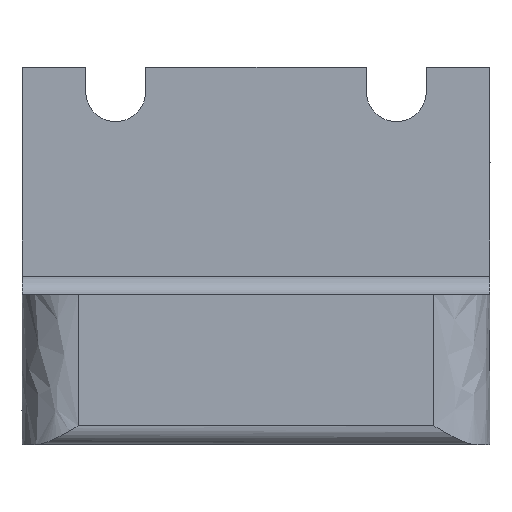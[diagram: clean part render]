
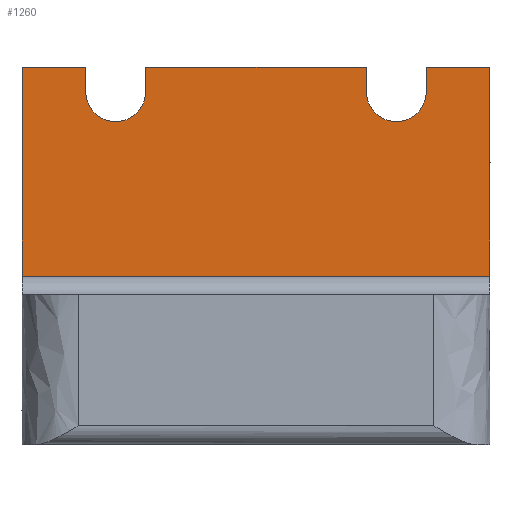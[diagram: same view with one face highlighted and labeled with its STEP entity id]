
A CAD part, left-side view. The second image highlights one B-rep face of the part: STEP entity #1260.
In plain terms, the highlighted planar face has unit normal (-1, 0, 0).
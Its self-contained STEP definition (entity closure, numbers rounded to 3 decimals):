
#2 = AXIS2_PLACEMENT_3D ( 'NONE', #207, #955, #1590 ) ;
#20 = DIRECTION ( 'NONE',  ( 0., 0., -1. ) ) ;
#35 = DIRECTION ( 'NONE',  ( 0., 0., -1. ) ) ;
#56 = LINE ( 'NONE', #317, #338 ) ;
#77 = EDGE_CURVE ( 'NONE', #1352, #1595, #395, .T. ) ;
#84 = ORIENTED_EDGE ( 'NONE', *, *, #685, .F. ) ;
#92 = DIRECTION ( 'NONE',  ( 0., 0., -1. ) ) ;
#95 = EDGE_CURVE ( 'NONE', #910, #1399, #257, .T. ) ;
#107 = ORIENTED_EDGE ( 'NONE', *, *, #1143, .F. ) ;
#122 = DIRECTION ( 'NONE',  ( 0., 0., -1. ) ) ;
#125 = VECTOR ( 'NONE', #1028, 1000. ) ;
#137 = CARTESIAN_POINT ( 'NONE',  ( -4.75, -12.5, 0. ) ) ;
#147 = ORIENTED_EDGE ( 'NONE', *, *, #472, .F. ) ;
#206 = VERTEX_POINT ( 'NONE', #550 ) ;
#207 = CARTESIAN_POINT ( 'NONE',  ( -4.75, -7.5, -1.3 ) ) ;
#211 = EDGE_CURVE ( 'NONE', #448, #1399, #56, .T. ) ;
#230 = AXIS2_PLACEMENT_3D ( 'NONE', #1123, #992, #1487 ) ;
#257 = LINE ( 'NONE', #526, #125 ) ;
#259 = DIRECTION ( 'NONE',  ( 0., 1., 0. ) ) ;
#317 = CARTESIAN_POINT ( 'NONE',  ( -4.75, 5.9, 0. ) ) ;
#324 = EDGE_CURVE ( 'NONE', #1352, #206, #400, .T. ) ;
#331 = CARTESIAN_POINT ( 'NONE',  ( -4.75, -9.1, 0. ) ) ;
#338 = VECTOR ( 'NONE', #1051, 1000. ) ;
#345 = EDGE_CURVE ( 'NONE', #1107, #1562, #531, .T. ) ;
#373 = ORIENTED_EDGE ( 'NONE', *, *, #1091, .F. ) ;
#378 = EDGE_LOOP ( 'NONE', ( #84, #373, #1293, #647, #107, #147, #1138, #1223, #1021, #406, #1035, #533 ) ) ;
#385 = CARTESIAN_POINT ( 'NONE',  ( -4.75, -12.5, 0. ) ) ;
#395 = LINE ( 'NONE', #385, #841 ) ;
#400 = LINE ( 'NONE', #902, #1412 ) ;
#406 = ORIENTED_EDGE ( 'NONE', *, *, #324, .F. ) ;
#424 = CARTESIAN_POINT ( 'NONE',  ( -4.75, 5.9, -1.3 ) ) ;
#448 = VERTEX_POINT ( 'NONE', #424 ) ;
#472 = EDGE_CURVE ( 'NONE', #1465, #693, #1033, .T. ) ;
#475 = FACE_OUTER_BOUND ( 'NONE', #378, .T. ) ;
#478 = LINE ( 'NONE', #1074, #1600 ) ;
#482 = VERTEX_POINT ( 'NONE', #912 ) ;
#526 = CARTESIAN_POINT ( 'NONE',  ( -4.75, -12.5, 0. ) ) ;
#531 = LINE ( 'NONE', #1535, #1210 ) ;
#533 = ORIENTED_EDGE ( 'NONE', *, *, #911, .F. ) ;
#550 = CARTESIAN_POINT ( 'NONE',  ( -4.75, -12.5, -11.15 ) ) ;
#625 = EDGE_CURVE ( 'NONE', #206, #1562, #478, .T. ) ;
#635 = VECTOR ( 'NONE', #20, 1000. ) ;
#647 = ORIENTED_EDGE ( 'NONE', *, *, #211, .F. ) ;
#656 = CARTESIAN_POINT ( 'NONE',  ( -4.75, 5.9, 0. ) ) ;
#685 = EDGE_CURVE ( 'NONE', #1016, #482, #1047, .T. ) ;
#693 = VERTEX_POINT ( 'NONE', #830 ) ;
#708 = VECTOR ( 'NONE', #259, 1000. ) ;
#730 = PLANE ( 'NONE',  #757 ) ;
#743 = VECTOR ( 'NONE', #92, 1000. ) ;
#757 = AXIS2_PLACEMENT_3D ( 'NONE', #1259, #1229, #122 ) ;
#786 = DIRECTION ( 'NONE',  ( 0., 0., 1. ) ) ;
#830 = CARTESIAN_POINT ( 'NONE',  ( -4.75, 9.1, -1.3 ) ) ;
#841 = VECTOR ( 'NONE', #886, 1000. ) ;
#843 = CARTESIAN_POINT ( 'NONE',  ( -4.75, 9.1, 0. ) ) ;
#886 = DIRECTION ( 'NONE',  ( 0., 1., 0. ) ) ;
#902 = CARTESIAN_POINT ( 'NONE',  ( -4.75, -12.5, 0. ) ) ;
#909 = CARTESIAN_POINT ( 'NONE',  ( -4.75, -5.9, 0. ) ) ;
#910 = VERTEX_POINT ( 'NONE', #909 ) ;
#911 = EDGE_CURVE ( 'NONE', #482, #1595, #1045, .T. ) ;
#912 = CARTESIAN_POINT ( 'NONE',  ( -4.75, -9.1, -1.3 ) ) ;
#949 = CIRCLE ( 'NONE', #230, 1.6 ) ;
#955 = DIRECTION ( 'NONE',  ( -1., 0., 0. ) ) ;
#992 = DIRECTION ( 'NONE',  ( -1., 0., 0. ) ) ;
#1016 = VERTEX_POINT ( 'NONE', #1309 ) ;
#1021 = ORIENTED_EDGE ( 'NONE', *, *, #625, .F. ) ;
#1028 = DIRECTION ( 'NONE',  ( 0., 1., 0. ) ) ;
#1033 = LINE ( 'NONE', #1151, #635 ) ;
#1035 = ORIENTED_EDGE ( 'NONE', *, *, #77, .T. ) ;
#1039 = DIRECTION ( 'NONE',  ( 0., 0., -1. ) ) ;
#1045 = LINE ( 'NONE', #1404, #1312 ) ;
#1047 = CIRCLE ( 'NONE', #2, 1.6 ) ;
#1051 = DIRECTION ( 'NONE',  ( 0., 0., 1. ) ) ;
#1074 = CARTESIAN_POINT ( 'NONE',  ( -4.75, -12.5, -11.15 ) ) ;
#1091 = EDGE_CURVE ( 'NONE', #910, #1016, #1344, .T. ) ;
#1093 = CARTESIAN_POINT ( 'NONE',  ( -4.75, 12.5, -11.15 ) ) ;
#1107 = VERTEX_POINT ( 'NONE', #1319 ) ;
#1123 = CARTESIAN_POINT ( 'NONE',  ( -4.75, 7.5, -1.3 ) ) ;
#1138 = ORIENTED_EDGE ( 'NONE', *, *, #1377, .T. ) ;
#1143 = EDGE_CURVE ( 'NONE', #693, #448, #949, .T. ) ;
#1151 = CARTESIAN_POINT ( 'NONE',  ( -4.75, 9.1, 0. ) ) ;
#1196 = CARTESIAN_POINT ( 'NONE',  ( -4.75, -5.9, 0. ) ) ;
#1210 = VECTOR ( 'NONE', #35, 1000. ) ;
#1223 = ORIENTED_EDGE ( 'NONE', *, *, #345, .T. ) ;
#1229 = DIRECTION ( 'NONE',  ( 1., 0., 0. ) ) ;
#1259 = CARTESIAN_POINT ( 'NONE',  ( -4.75, -12.5, 0. ) ) ;
#1260 = ADVANCED_FACE ( 'NONE', ( #475 ), #730, .F. ) ;
#1283 = CARTESIAN_POINT ( 'NONE',  ( -4.75, -12.5, 0. ) ) ;
#1293 = ORIENTED_EDGE ( 'NONE', *, *, #95, .T. ) ;
#1309 = CARTESIAN_POINT ( 'NONE',  ( -4.75, -5.9, -1.3 ) ) ;
#1312 = VECTOR ( 'NONE', #786, 1000. ) ;
#1319 = CARTESIAN_POINT ( 'NONE',  ( -4.75, 12.5, 0. ) ) ;
#1344 = LINE ( 'NONE', #1196, #743 ) ;
#1352 = VERTEX_POINT ( 'NONE', #137 ) ;
#1377 = EDGE_CURVE ( 'NONE', #1465, #1107, #1509, .T. ) ;
#1399 = VERTEX_POINT ( 'NONE', #656 ) ;
#1404 = CARTESIAN_POINT ( 'NONE',  ( -4.75, -9.1, 0. ) ) ;
#1412 = VECTOR ( 'NONE', #1039, 1000. ) ;
#1465 = VERTEX_POINT ( 'NONE', #843 ) ;
#1476 = DIRECTION ( 'NONE',  ( 0., 1., 0. ) ) ;
#1487 = DIRECTION ( 'NONE',  ( 0., 0., -1. ) ) ;
#1509 = LINE ( 'NONE', #1283, #708 ) ;
#1535 = CARTESIAN_POINT ( 'NONE',  ( -4.75, 12.5, 0. ) ) ;
#1562 = VERTEX_POINT ( 'NONE', #1093 ) ;
#1590 = DIRECTION ( 'NONE',  ( 0., 0., -1. ) ) ;
#1595 = VERTEX_POINT ( 'NONE', #331 ) ;
#1600 = VECTOR ( 'NONE', #1476, 1000. ) ;
